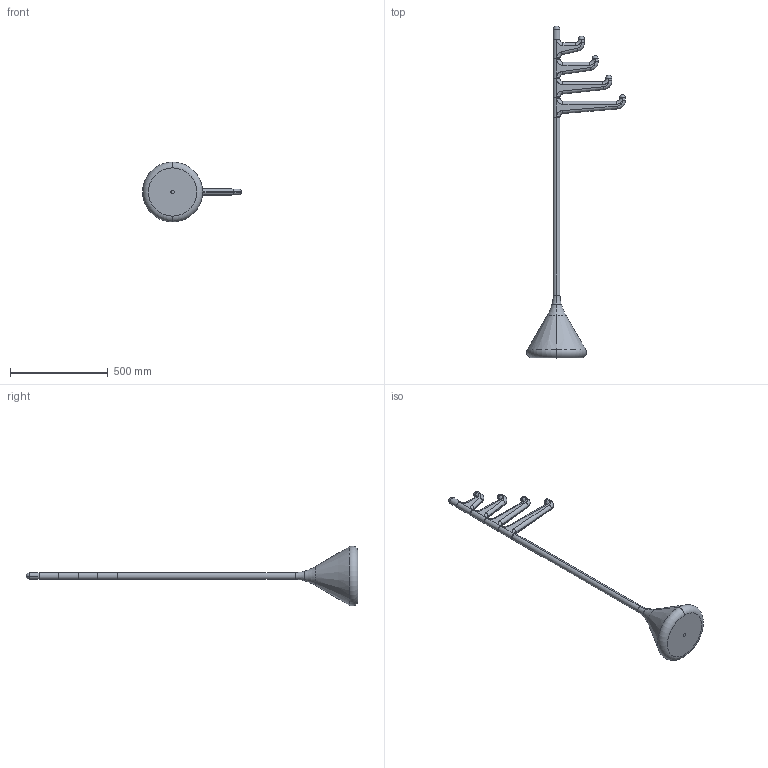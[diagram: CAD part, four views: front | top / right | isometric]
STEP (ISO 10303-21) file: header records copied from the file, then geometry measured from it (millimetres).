
FILE_DESCRIPTION (( 'STEP AP203' ), '1' );
FILE_NAME ('SAGUARO HANGER.STEP', '2023-03-21T12:14:42', ( '' ), ( '' ), 'SwSTEP 2.0', 'SolidWorks 2023', '' );
FILE_SCHEMA (( 'CONFIG_CONTROL_DESIGN' ));
Length unit declared in the file: millimetre
Products named in the file (2): Group1^SAGUARO HANGER; SAGUARO HANGER
Assembly tree (1 placements, depth 2):
  SAGUARO HANGER
    Group1^SAGUARO HANGER
Bounding box: 506 x 1700 x 307 mm (x, y, z)
Volume: 11938242.7 mm3; surface area: 533655 mm2
Topology: 1 solids, 1 shells, 200 faces, 461 edges, 254 vertices
Faces by surface type: cylinder 74, bspline 50, plane 46, cone 14, sphere 10, torus 6
Entity records: 13450 total; most frequent: CARTESIAN_POINT 9567, ORIENTED_EDGE 882, DIRECTION 600, EDGE_CURVE 441, VERTEX_POINT 244, AXIS2_PLACEMENT_3D 241, EDGE_LOOP 201, FACE_OUTER_BOUND 200
